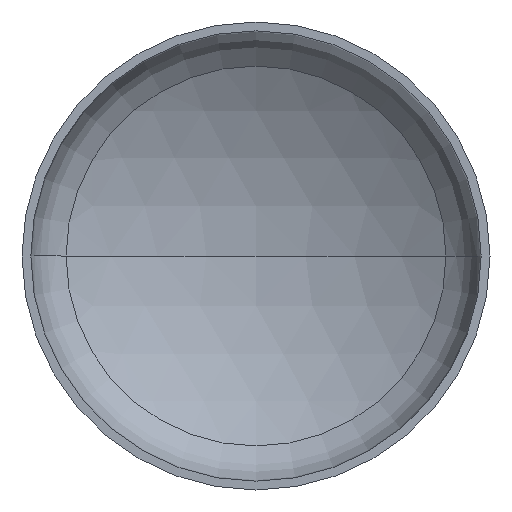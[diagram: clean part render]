
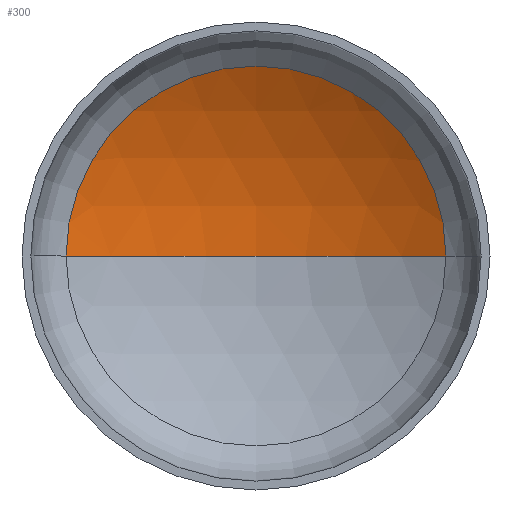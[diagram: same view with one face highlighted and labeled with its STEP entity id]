
A CAD part, front view. The second image highlights one B-rep face of the part: STEP entity #300.
In plain terms, the highlighted spherical face has radius 1440 mm.
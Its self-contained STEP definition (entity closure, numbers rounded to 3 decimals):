
#10 = EDGE_LOOP ( 'NONE', ( #164, #139, #94 ) ) ;
#15 = DIRECTION ( 'NONE',  ( -1., 0., 0. ) ) ;
#37 = AXIS2_PLACEMENT_3D ( 'NONE', #133, #137, #66 ) ;
#48 = AXIS2_PLACEMENT_3D ( 'NONE', #395, #389, #371 ) ;
#62 = VERTEX_POINT ( 'NONE', #346 ) ;
#64 = AXIS2_PLACEMENT_3D ( 'NONE', #172, #171, #15 ) ;
#66 = DIRECTION ( 'NONE',  ( -1., 0., 0. ) ) ;
#76 = AXIS2_PLACEMENT_3D ( 'NONE', #249, #247, #269 ) ;
#80 = CIRCLE ( 'NONE', #76, 730.506 ) ;
#94 = ORIENTED_EDGE ( 'NONE', *, *, #196, .T. ) ;
#133 = CARTESIAN_POINT ( 'NONE',  ( 0., -893.964, 0. ) ) ;
#136 = VERTEX_POINT ( 'NONE', #316 ) ;
#137 = DIRECTION ( 'NONE',  ( 0., 0., -1. ) ) ;
#139 = ORIENTED_EDGE ( 'NONE', *, *, #212, .T. ) ;
#164 = ORIENTED_EDGE ( 'NONE', *, *, #228, .F. ) ;
#171 = DIRECTION ( 'NONE',  ( 0., 0., -1. ) ) ;
#172 = CARTESIAN_POINT ( 'NONE',  ( 0., -893.964, 0. ) ) ;
#185 = CIRCLE ( 'NONE', #48, 1440. ) ;
#196 = EDGE_CURVE ( 'NONE', #408, #62, #80, .T. ) ;
#212 = EDGE_CURVE ( 'NONE', #136, #408, #314, .T. ) ;
#228 = EDGE_CURVE ( 'NONE', #136, #62, #185, .T. ) ;
#247 = DIRECTION ( 'NONE',  ( 0., -1., 0. ) ) ;
#249 = CARTESIAN_POINT ( 'NONE',  ( 0., 346.987, 0. ) ) ;
#250 = FACE_OUTER_BOUND ( 'NONE', #10, .T. ) ;
#269 = DIRECTION ( 'NONE',  ( 1., 0., 0. ) ) ;
#300 = ADVANCED_FACE ( 'NONE', ( #250 ), #363, .F. ) ;
#314 = CIRCLE ( 'NONE', #64, 1440. ) ;
#316 = CARTESIAN_POINT ( 'NONE',  ( 0., 546.036, 0. ) ) ;
#346 = CARTESIAN_POINT ( 'NONE',  ( -730.506, 346.987, 0. ) ) ;
#361 = CARTESIAN_POINT ( 'NONE',  ( 730.506, 346.987, 0. ) ) ;
#363 = SPHERICAL_SURFACE ( 'NONE', #37, 1440. ) ;
#371 = DIRECTION ( 'NONE',  ( 1., 0., 0. ) ) ;
#389 = DIRECTION ( 'NONE',  ( 0., 0., 1. ) ) ;
#395 = CARTESIAN_POINT ( 'NONE',  ( 0., -893.964, 0. ) ) ;
#408 = VERTEX_POINT ( 'NONE', #361 ) ;
